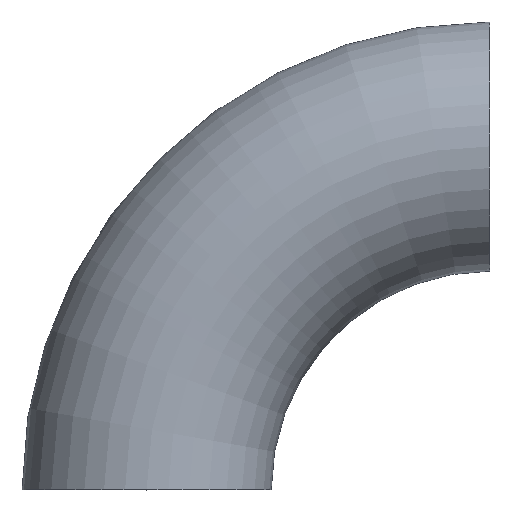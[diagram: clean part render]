
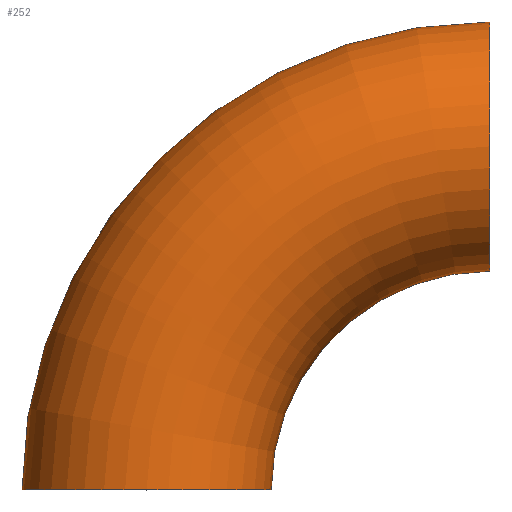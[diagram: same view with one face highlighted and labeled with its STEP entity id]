
A CAD part, top view. The second image highlights one B-rep face of the part: STEP entity #252.
In plain terms, the highlighted toroidal (fillet/blend) face has major radius 73 mm and minor radius 26.5 mm.
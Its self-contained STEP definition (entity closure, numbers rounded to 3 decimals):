
#8 = CARTESIAN_POINT ( 'NONE',  ( 73., 0., 0. ) ) ;
#9 = DIRECTION ( 'NONE',  ( 0., 0., 1. ) ) ;
#15 = AXIS2_PLACEMENT_3D ( 'NONE', #231, #38, #154 ) ;
#28 = DIRECTION ( 'NONE',  ( 1., 0., 0. ) ) ;
#29 = EDGE_CURVE ( 'NONE', #56, #245, #199, .T. ) ;
#36 = AXIS2_PLACEMENT_3D ( 'NONE', #241, #9, #221 ) ;
#38 = DIRECTION ( 'NONE',  ( 1., 0., 0. ) ) ;
#45 = CARTESIAN_POINT ( 'NONE',  ( 73., 99.5, 0. ) ) ;
#47 = CARTESIAN_POINT ( 'NONE',  ( 26.5, 0., 0. ) ) ;
#55 = AXIS2_PLACEMENT_3D ( 'NONE', #80, #145, #206 ) ;
#56 = VERTEX_POINT ( 'NONE', #137 ) ;
#57 = EDGE_CURVE ( 'NONE', #208, #62, #184, .T. ) ;
#62 = VERTEX_POINT ( 'NONE', #96 ) ;
#80 = CARTESIAN_POINT ( 'NONE',  ( 73., 0., 0. ) ) ;
#91 = FACE_OUTER_BOUND ( 'NONE', #160, .T. ) ;
#95 = CIRCLE ( 'NONE', #36, 99.5 ) ;
#96 = CARTESIAN_POINT ( 'NONE',  ( 73., 46.5, 0. ) ) ;
#111 = AXIS2_PLACEMENT_3D ( 'NONE', #133, #156, #136 ) ;
#118 = ORIENTED_EDGE ( 'NONE', *, *, #57, .F. ) ;
#133 = CARTESIAN_POINT ( 'NONE',  ( 0., 0., 0. ) ) ;
#135 = ORIENTED_EDGE ( 'NONE', *, *, #229, .T. ) ;
#136 = DIRECTION ( 'NONE',  ( 0., 0., 1. ) ) ;
#137 = CARTESIAN_POINT ( 'NONE',  ( -26.5, 0., 0. ) ) ;
#142 = DIRECTION ( 'NONE',  ( 0., 0., 1. ) ) ;
#144 = AXIS2_PLACEMENT_3D ( 'NONE', #8, #142, #28 ) ;
#145 = DIRECTION ( 'NONE',  ( 0., 0., 1. ) ) ;
#154 = DIRECTION ( 'NONE',  ( 0., 0., 1. ) ) ;
#156 = DIRECTION ( 'NONE',  ( 0., 1., 0. ) ) ;
#160 = EDGE_LOOP ( 'NONE', ( #118, #135, #166, #216 ) ) ;
#166 = ORIENTED_EDGE ( 'NONE', *, *, #29, .T. ) ;
#184 = CIRCLE ( 'NONE', #15, 26.5 ) ;
#199 = CIRCLE ( 'NONE', #111, 26.5 ) ;
#203 = TOROIDAL_SURFACE ( 'NONE', #55, 73., 26.5 ) ;
#206 = DIRECTION ( 'NONE',  ( 1., 0., 0. ) ) ;
#207 = EDGE_CURVE ( 'NONE', #62, #245, #249, .T. ) ;
#208 = VERTEX_POINT ( 'NONE', #45 ) ;
#216 = ORIENTED_EDGE ( 'NONE', *, *, #207, .F. ) ;
#221 = DIRECTION ( 'NONE',  ( 1., 0., 0. ) ) ;
#229 = EDGE_CURVE ( 'NONE', #208, #56, #95, .T. ) ;
#231 = CARTESIAN_POINT ( 'NONE',  ( 73., 73., 0. ) ) ;
#241 = CARTESIAN_POINT ( 'NONE',  ( 73., 0., 0. ) ) ;
#245 = VERTEX_POINT ( 'NONE', #47 ) ;
#249 = CIRCLE ( 'NONE', #144, 46.5 ) ;
#252 = ADVANCED_FACE ( 'NONE', ( #91 ), #203, .T. ) ;
